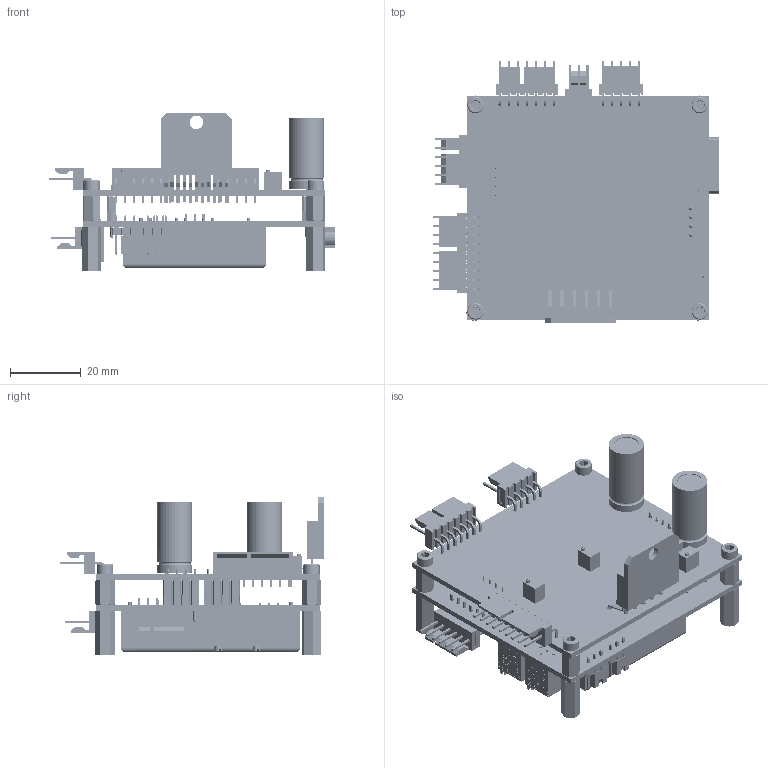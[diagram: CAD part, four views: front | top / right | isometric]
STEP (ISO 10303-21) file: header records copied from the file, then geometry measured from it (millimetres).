
FILE_DESCRIPTION (( 'STEP AP203' ), '1' );
FILE_NAME ('OIMC101E REV NC, Small OEM Ctrl With DC DC Converter and BS Card.STEP', '2020-04-22T04:42:19', ( '' ), ( '' ), 'SwSTEP 2.0', 'SolidWorks 2017', '' );
FILE_SCHEMA (( 'CONFIG_CONTROL_DESIGN' ));
Length unit declared in the file: inch
Products named in the file (27): OPA2544; OIMC101E REV NC, Small OEM Ctrl With DC DC Converter and BS Card; 022053061; 022053091; User Library-3299W-1-103RLF; OEM BS PCB; 022053071; 022053031; Small OEM PCB; 022053051; M80-530XX22_SHORT_PIN; pcb_connector_800-10-102-10-001101; 68786-102LF; 93505A464_ALUM MALE-FEM THRDED HEX STANDOFF_93505A464; 91780A533_ALUM FEM THRDED HEX STANDOFF_91780A533; M80-210MC00; 961136-6404-2; M80-2702098_SEPARATE_ROWS; CUI DC DC Converter; Small Pot; m80-5l106xxmc_asm_1; 961136-6404-3; M80-530XX22_LONG_PIN; OIMC101 REV NC, SMALL OEM CONTROLLER; pcb_connector_310-87-104-01-640101; User Library-Capacitor, Al El, Thru Mt, 2200uF, 25V - CDE #SEK222M025ST; 92196A105
Assembly tree (51 placements, depth 3):
  OIMC101E REV NC, Small OEM Ctrl With DC DC Converter and BS Card
    OIMC101 REV NC, SMALL OEM CONTROLLER
      Small OEM PCB
      User Library-Capacitor, Al El, Thru Mt, 2200uF, 25V - CDE #SEK222M025ST  x2
      92196A105  x4
      OPA2544
      022053071
      022053051
      022053091
      Small Pot  x4
    CUI DC DC Converter
    91780A533_ALUM FEM THRDED HEX STANDOFF_91780A533  x4
    022053031
    pcb_connector_310-87-104-01-640101  x2
    pcb_connector_800-10-102-10-001101  x4
    93505A464_ALUM MALE-FEM THRDED HEX STANDOFF_93505A464  x4
    OEM BS PCB
    User Library-3299W-1-103RLF  x2
    m80-5l106xxmc_asm_1
      M80-2702098_SEPARATE_ROWS
      M80-530XX22_SHORT_PIN  x3
      M80-530XX22_LONG_PIN  x3
      M80-210MC00  x2
    961136-6404-2
    961136-6404-3  x2
    68786-102LF  x2
    022053061
Bounding box: 81.01 x 74.48 x 45.02 mm (x, y, z)
Volume: 47909.6 mm3; surface area: 38857.4 mm2
Topology: 49 solids, 49 shells, 4197 faces, 10923 edges, 7026 vertices
Faces by surface type: plane 2231, cylinder 1016, cone 426, bspline 360, torus 116, sphere 48
Entity records: 92636 total; most frequent: CARTESIAN_POINT 29818, ORIENTED_EDGE 12654, DIRECTION 11489, EDGE_CURVE 6327, LINE 4469, VECTOR 4469, VERTEX_POINT 4130, AXIS2_PLACEMENT_3D 3510
